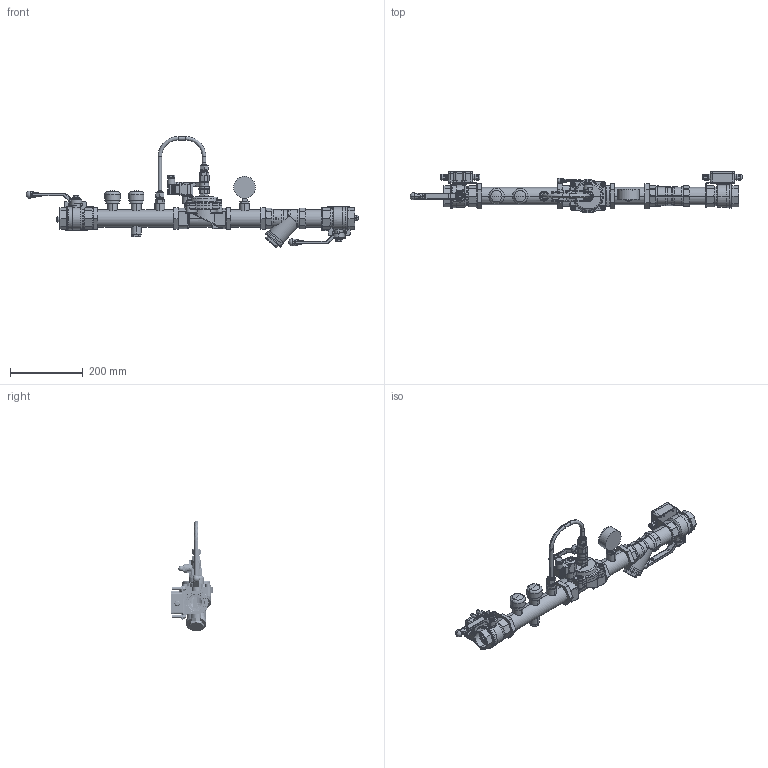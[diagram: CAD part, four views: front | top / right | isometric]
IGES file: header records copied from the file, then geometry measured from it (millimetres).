
Start section: File generated by T-FLEX CAD Version (null)
Global section: file name:                  DN 40 3D.igs; native system: T-FLEX CAD; date: 211014.093133; units: millimetre
Bounding box: 909.86 x 115 x 303.64 mm (x, y, z)
Volume: 1453084.5 mm3; surface area: 643712.2 mm2
Topology: 110 solids, 126 shells, 4412 faces, 11235 edges, 6961 vertices
Faces by surface type: plane 1703, cylinder 1329, bspline 523, cone 518, revolution 253, sphere 86
